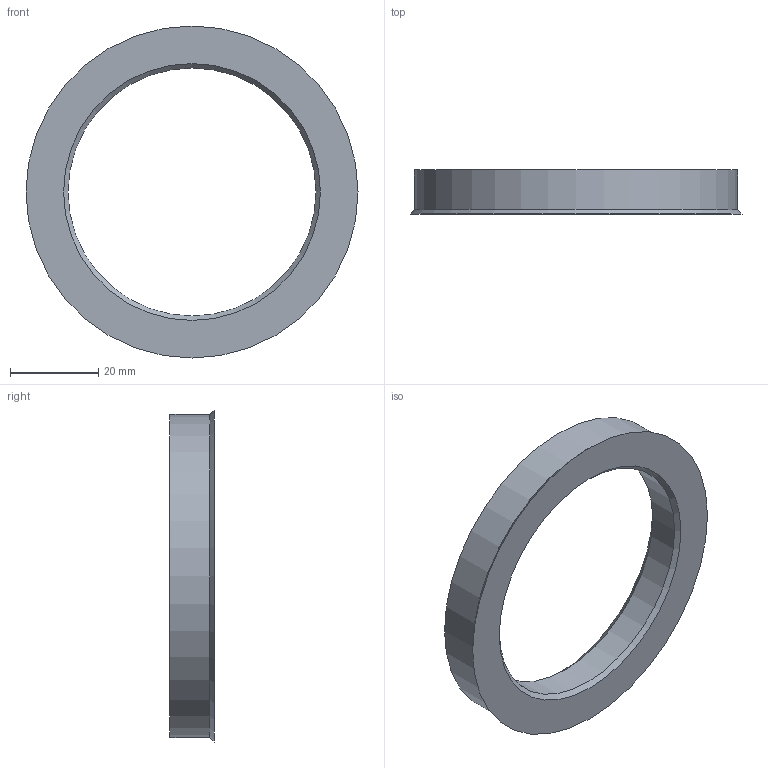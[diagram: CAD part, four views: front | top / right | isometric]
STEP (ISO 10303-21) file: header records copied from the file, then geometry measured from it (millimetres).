
FILE_DESCRIPTION(/* description */ (''),/* implementation_level */ '2;1');
FILE_NAME(/* name */ 'G:\CAD Library\Team Tasks\DIPP\11th Intake\Bradley Coles\Design Drafting\Random\Hub Rings\ipt\HubRing_73.1-56.1.stp',/* time_stamp */ '2025-07-22T13:45:57+08:00',/* author */ ('BCOLES'),/* organization */ (''),/* preprocessor_version */ 'ST-DEVELOPER v18.1',/* originating_system */ 'Autodesk Inventor 2022',/* authorisation */ '');
FILE_SCHEMA (('AUTOMOTIVE_DESIGN { 1 0 10303 214 3 1 1 }'));
Length unit declared in the file: millimetre
Products named in the file (1): HubRing_73.1-56.1
Bounding box: 75.1 x 10 x 75.1 mm (x, y, z)
Volume: 16916.3 mm3; surface area: 7538.2 mm2
Topology: 1 solids, 1 shells, 7 faces, 13 edges, 8 vertices
Faces by surface type: cone 3, cylinder 2, plane 2
Full cylindrical faces by diameter (mm): 56.1 x1, 73.1 x1
Entity records: 226 total; most frequent: DIRECTION 37, CARTESIAN_POINT 29, ORIENTED_EDGE 26, AXIS2_PLACEMENT_3D 16, EDGE_CURVE 13, EDGE_LOOP 9, CIRCLE 8, VERTEX_POINT 8
